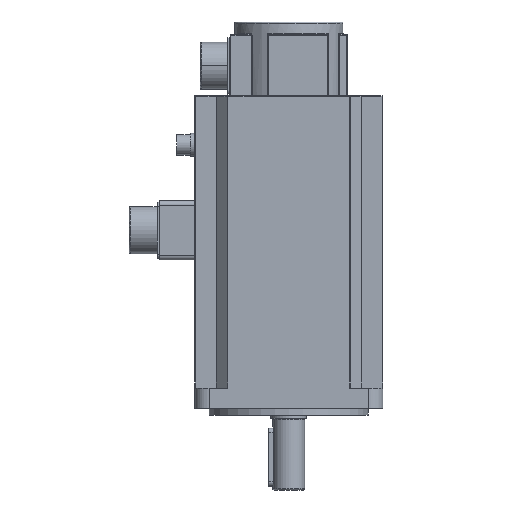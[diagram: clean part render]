
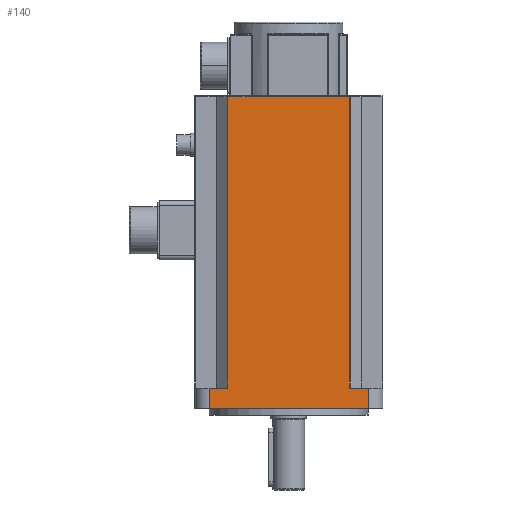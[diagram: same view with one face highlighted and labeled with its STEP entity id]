
A CAD part, front view. The second image highlights one B-rep face of the part: STEP entity #140.
In plain terms, the highlighted planar face has unit normal (0, -1, 0).
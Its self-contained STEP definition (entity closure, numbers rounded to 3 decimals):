
#140 = ADVANCED_FACE ( 'NONE', ( #6574 ), #6902, .F. ) ;
#1607 = CARTESIAN_POINT ( 'NONE',  ( 55., -65., 18.8 ) ) ;
#1840 = CARTESIAN_POINT ( 'NONE',  ( -55., -65., 18.8 ) ) ;
#1842 = CARTESIAN_POINT ( 'NONE',  ( 42., -65., 18.8 ) ) ;
#1889 = CARTESIAN_POINT ( 'NONE',  ( -42., -65., 18.8 ) ) ;
#1985 = CARTESIAN_POINT ( 'NONE',  ( 55., -65., 4.8 ) ) ;
#2007 = CARTESIAN_POINT ( 'NONE',  ( -42., -65., 220.3 ) ) ;
#2075 = CARTESIAN_POINT ( 'NONE',  ( -55., -65., 4.8 ) ) ;
#2102 = CARTESIAN_POINT ( 'NONE',  ( 42., -65., 220.3 ) ) ;
#2295 = EDGE_LOOP ( 'NONE', ( #8135, #7786, #8117, #8124, #7986, #8165, #7750, #7951 ) ) ;
#2467 = VERTEX_POINT ( 'NONE', #2102 ) ;
#2481 = VERTEX_POINT ( 'NONE', #2075 ) ;
#2489 = VECTOR ( 'NONE', #2994, 1000. ) ;
#2493 = VECTOR ( 'NONE', #2986, 1000. ) ;
#2497 = VECTOR ( 'NONE', #3000, 1000. ) ;
#2499 = LINE ( 'NONE', #2999, #2497 ) ;
#2501 = LINE ( 'NONE', #2993, #2489 ) ;
#2507 = LINE ( 'NONE', #3002, #2493 ) ;
#2986 = DIRECTION ( 'NONE',  ( 0., 0., -1. ) ) ;
#2993 = CARTESIAN_POINT ( 'NONE',  ( -55., -65., 18.8 ) ) ;
#2994 = DIRECTION ( 'NONE',  ( 1., 0., 0. ) ) ;
#2999 = CARTESIAN_POINT ( 'NONE',  ( -42., -65., 18.8 ) ) ;
#3000 = DIRECTION ( 'NONE',  ( 0., 0., -1. ) ) ;
#3002 = CARTESIAN_POINT ( 'NONE',  ( 55., -65., 18.8 ) ) ;
#3228 = DIRECTION ( 'NONE',  ( -1., 0., 0. ) ) ;
#3251 = CARTESIAN_POINT ( 'NONE',  ( -42.5, -65., 220.3 ) ) ;
#3255 = DIRECTION ( 'NONE',  ( 0., 0., -1. ) ) ;
#3266 = CARTESIAN_POINT ( 'NONE',  ( -55., -65., 18.8 ) ) ;
#3270 = CARTESIAN_POINT ( 'NONE',  ( -55., -65., 4.8 ) ) ;
#3271 = DIRECTION ( 'NONE',  ( 1., 0., 0. ) ) ;
#3282 = CARTESIAN_POINT ( 'NONE',  ( 42., -65., 18.8 ) ) ;
#3283 = DIRECTION ( 'NONE',  ( 0., 0., 1. ) ) ;
#3389 = DIRECTION ( 'NONE',  ( 1., 0., 0. ) ) ;
#3399 = CARTESIAN_POINT ( 'NONE',  ( -55., -65., 18.8 ) ) ;
#3819 = VECTOR ( 'NONE', #3389, 1000. ) ;
#3821 = LINE ( 'NONE', #3399, #3819 ) ;
#3935 = VECTOR ( 'NONE', #3283, 1000. ) ;
#3937 = VECTOR ( 'NONE', #3271, 1000. ) ;
#3938 = LINE ( 'NONE', #3282, #3935 ) ;
#3939 = LINE ( 'NONE', #3270, #3937 ) ;
#3947 = VECTOR ( 'NONE', #3255, 1000. ) ;
#3952 = LINE ( 'NONE', #3266, #3947 ) ;
#3954 = VECTOR ( 'NONE', #3228, 1000. ) ;
#3957 = LINE ( 'NONE', #3251, #3954 ) ;
#4491 = VERTEX_POINT ( 'NONE', #2007 ) ;
#4503 = VERTEX_POINT ( 'NONE', #1985 ) ;
#4550 = VERTEX_POINT ( 'NONE', #1889 ) ;
#4586 = VERTEX_POINT ( 'NONE', #1840 ) ;
#4591 = VERTEX_POINT ( 'NONE', #1842 ) ;
#5141 = VERTEX_POINT ( 'NONE', #1607 ) ;
#5372 = AXIS2_PLACEMENT_3D ( 'NONE', #6905, #6900, #6899 ) ;
#5906 = EDGE_CURVE ( 'NONE', #2467, #4491, #3957, .T. ) ;
#5911 = EDGE_CURVE ( 'NONE', #4586, #2481, #3952, .T. ) ;
#5917 = EDGE_CURVE ( 'NONE', #2481, #4503, #3939, .T. ) ;
#5918 = EDGE_CURVE ( 'NONE', #4591, #2467, #3938, .T. ) ;
#5961 = EDGE_CURVE ( 'NONE', #4591, #5141, #3821, .T. ) ;
#6102 = EDGE_CURVE ( 'NONE', #4586, #4550, #2501, .T. ) ;
#6104 = EDGE_CURVE ( 'NONE', #4491, #4550, #2499, .T. ) ;
#6106 = EDGE_CURVE ( 'NONE', #5141, #4503, #2507, .T. ) ;
#6574 = FACE_OUTER_BOUND ( 'NONE', #2295, .T. ) ;
#6899 = DIRECTION ( 'NONE',  ( 0., 0., 1. ) ) ;
#6900 = DIRECTION ( 'NONE',  ( 0., 1., 0. ) ) ;
#6902 = PLANE ( 'NONE',  #5372 ) ;
#6905 = CARTESIAN_POINT ( 'NONE',  ( -55., -65., 18.8 ) ) ;
#7750 = ORIENTED_EDGE ( 'NONE', *, *, #5918, .T. ) ;
#7786 = ORIENTED_EDGE ( 'NONE', *, *, #6102, .F. ) ;
#7951 = ORIENTED_EDGE ( 'NONE', *, *, #5906, .T. ) ;
#7986 = ORIENTED_EDGE ( 'NONE', *, *, #6106, .F. ) ;
#8117 = ORIENTED_EDGE ( 'NONE', *, *, #5911, .T. ) ;
#8124 = ORIENTED_EDGE ( 'NONE', *, *, #5917, .T. ) ;
#8135 = ORIENTED_EDGE ( 'NONE', *, *, #6104, .T. ) ;
#8165 = ORIENTED_EDGE ( 'NONE', *, *, #5961, .F. ) ;
